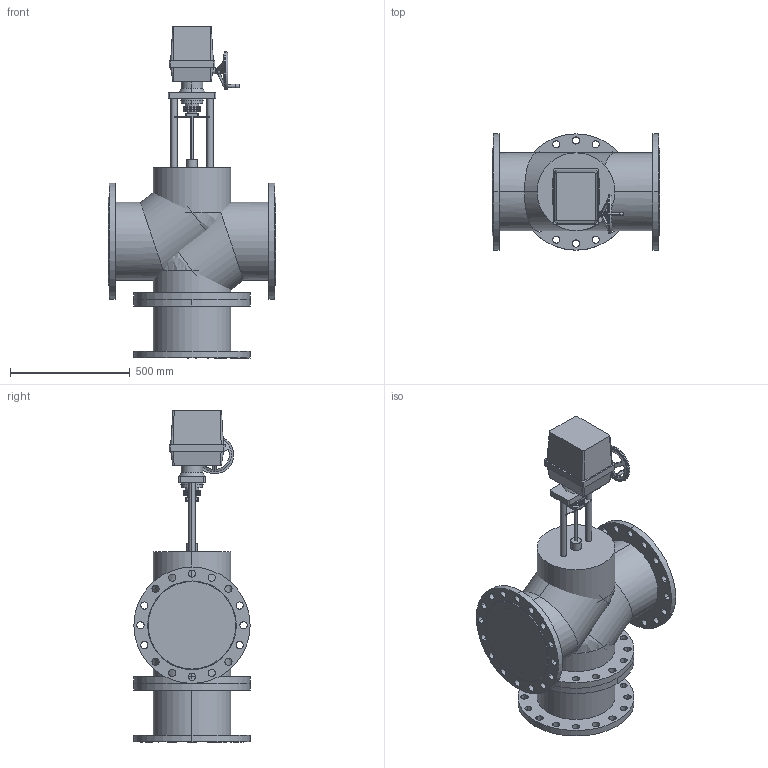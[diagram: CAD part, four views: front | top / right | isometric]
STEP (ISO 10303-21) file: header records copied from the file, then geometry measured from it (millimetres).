
FILE_DESCRIPTION(/* description */ (''),/* implementation_level */ '2;1');
FILE_NAME(/* name */ 'ТРК DN300 PN 2.5 МПа Regada ST2',/* time_stamp */ '2026-07-14T23:16:07+03:00',/* author */ (''),/* organization */ (''),/* preprocessor_version */ 'ST-DEVELOPER v20',/* originating_system */ '',/* authorisation */ '');
FILE_SCHEMA (('AP242_MANAGED_MODEL_BASED_3D_ENGINEERING_MIM_LF { 1 0 10303 442 1 1 4 }'));
Length unit declared in the file: millimetre
Products named in the file (16): TopLevelAssembly; Выдавливание; Модификатор; Модификатор_1; Выдавливание_
1; Выдавливание_
2; Вращение; Выдавливание_
3; Выдавливание_
4; Выдавливание_
5; Выдавливание_
6; Выдавливание_
7; Привод_Regada ST 2; Переход; Объемная геометрия 
присоединена; Объемная геометрия 
присоединена_1
Assembly tree (15 placements, depth 2):
  TopLevelAssembly
    Выдавливание
    Модификатор
    Модификатор_1
    Выдавливание_
1
    Выдавливание_
2
    Вращение
    Выдавливание_
3
    Выдавливание_
4
    Выдавливание_
5
    Выдавливание_
6
    Выдавливание_
7
    Привод_Regada ST 2
    Переход
    Объемная геометрия 
присоединена
    Объемная геометрия 
присоединена_1
Bounding box: 698 x 485 x 1385 mm (x, y, z)
Volume: 158791913.3 mm3; surface area: 5343540.5 mm2
Topology: 31 solids, 31 shells, 424 faces, 1022 edges, 648 vertices
Faces by surface type: cylinder 252, plane 110, bspline 58, cone 4
Entity records: 14473 total; most frequent: CARTESIAN_POINT 3283, DIRECTION 2370, ORIENTED_EDGE 2024, EDGE_CURVE 1012, AXIS2_PLACEMENT_3D 985, VERTEX_POINT 648, EDGE_LOOP 598, CIRCLE 580
